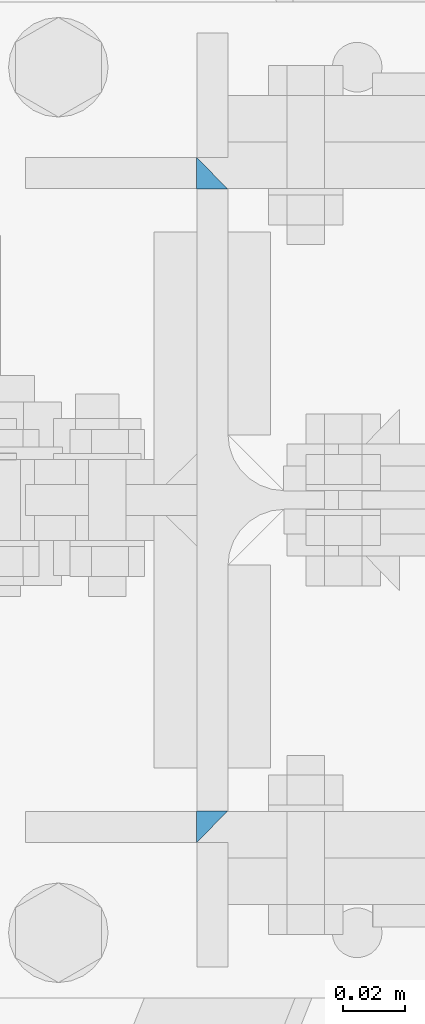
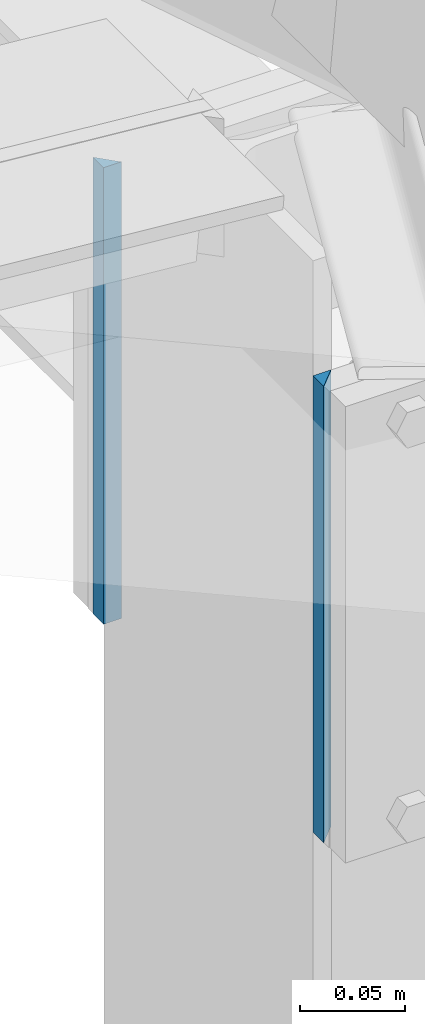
# One storey, part 29 of 251: 2 fasteners.
"""IFC4 building model written with IfcOpenShell, lengths in metres."""

from ifc_helpers import new_model, si_unit, frame, origin_with_axes, place, context, project, spatial, polyline, outline, extrude, type_object, element, save


model = new_model("IFC4")

# Units and contexts
model_context = context("Model", 3, precision=1e-05, world=origin_with_axes())
ifc_project = project(units=[si_unit("LENGTHUNIT", "METRE"), si_unit("AREAUNIT", "SQUARE_METRE"), si_unit("VOLUMEUNIT", "CUBIC_METRE"), si_unit("MASSUNIT", "GRAM", prefix="KILO"), si_unit("TIMEUNIT", "SECOND"), si_unit("PLANEANGLEUNIT", "RADIAN"), si_unit("SOLIDANGLEUNIT", "STERADIAN"), si_unit("THERMODYNAMICTEMPERATUREUNIT", "DEGREE_CELSIUS")], contexts=[model_context])

# Site, building, storey
placement_1 = place(None, origin_with_axes())
site = spatial("IfcSite", under=ifc_project, at=placement_1, Name="Italia", CompositionType="ELEMENT")
building = spatial("IfcBuilding", under=site, at=placement_1, Name="Deposito", CompositionType="ELEMENT")
storey = spatial("IfcBuildingStorey", under=building, at=placement_1, Name="Storey 0", CompositionType="ELEMENT", Elevation=0.0)

# Fasteners
fastener_type_1 = type_object("IfcFastenerType", Name="Collegamenti -064_-065 -065_-064 -065_-066 -066_-065 -066_-067 -067_-066 -067_-068 -068_-067", PredefinedType="WELD")
placement_2 = place(placement_1, origin_with_axes())
fastener_1_placement = place(placement_2, origin_with_axes())
element("IfcFastener", 1, at=fastener_1_placement, inside=storey, type_object=fastener_type_1, Name="Collegamenti -064_-065 -065_-064 -065_-066 -066_-065 -066_-067 -067_-066 -067_-068 -068_-067", context=model_context, shape_type="SweptSolid", body=[
    extrude(outline(polyline([(0.0, 0.0), (-0.0101733, 0.00986862), (0.0, 0.00986862), (0.0, 0.0)])), frame((19.9148, 4.90005, 5.66695), z_axis=(0.0, 0.0, 1.0), x_axis=(0.0, 1.0, 0.0)), (0.0, 0.0, 1.0), 0.2661),
])
fastener_type_2 = type_object("IfcFastenerType", Name="Collegamenti -064_-065 -065_-064 -065_-066 -066_-065 -066_-067 -067_-066 -067_-068 -068_-067", PredefinedType="WELD")
fastener_2_placement = place(placement_2, origin_with_axes())
element("IfcFastener", 2, at=fastener_2_placement, inside=storey, type_object=fastener_type_2, Name="Collegamenti -064_-065 -065_-064 -065_-066 -066_-065 -066_-067 -067_-066 -067_-068 -068_-067", context=model_context, shape_type="SweptSolid", body=[
    extrude(outline(polyline([(0.0, 0.0), (0.0101733, -0.00986862), (0.0, -0.00986862), (0.0, 0.0)])), frame((19.9148, 5.09995, 5.93305), z_axis=(0.0, 0.0, -1.0), x_axis=(0.0, 1.0, 0.0)), (0.0, 0.0, 1.0), 0.2661),
])

save(model, "model.ifc")
